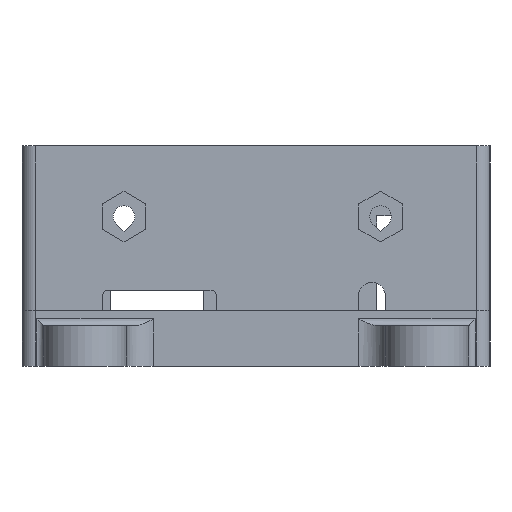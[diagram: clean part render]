
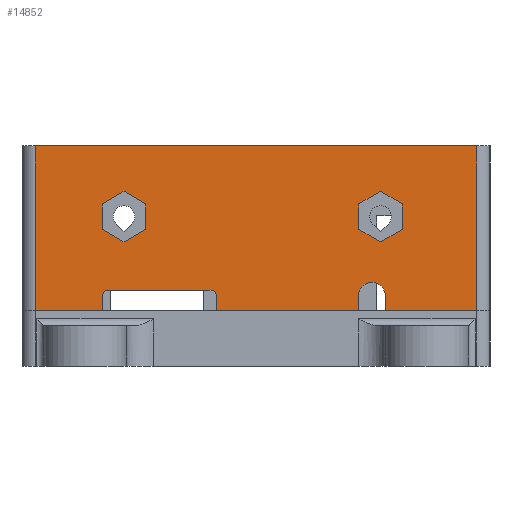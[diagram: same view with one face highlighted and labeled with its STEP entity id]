
A CAD part, left-side view. The second image highlights one B-rep face of the part: STEP entity #14852.
In plain terms, the highlighted planar face has unit normal (-1, 0, 0).
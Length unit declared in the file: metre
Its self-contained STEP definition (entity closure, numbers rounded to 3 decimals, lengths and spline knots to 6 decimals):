
#643=CIRCLE('',#15925,0.001);
#645=CIRCLE('',#15929,0.001);
#647=CIRCLE('',#15934,0.002);
#3264=ORIENTED_EDGE('',*,*,#6800,.F.);
#3265=ORIENTED_EDGE('',*,*,#5868,.T.);
#3266=ORIENTED_EDGE('',*,*,#6801,.T.);
#3267=ORIENTED_EDGE('',*,*,#6665,.T.);
#3268=ORIENTED_EDGE('',*,*,#6654,.F.);
#3269=ORIENTED_EDGE('',*,*,#6657,.T.);
#3270=ORIENTED_EDGE('',*,*,#6661,.F.);
#3271=ORIENTED_EDGE('',*,*,#6664,.F.);
#3272=ORIENTED_EDGE('',*,*,#6802,.T.);
#3273=ORIENTED_EDGE('',*,*,#6672,.F.);
#3274=ORIENTED_EDGE('',*,*,#6671,.T.);
#3275=ORIENTED_EDGE('',*,*,#6675,.F.);
#3276=ORIENTED_EDGE('',*,*,#6787,.T.);
#3277=ORIENTED_EDGE('',*,*,#5862,.F.);
#3278=ORIENTED_EDGE('',*,*,#6595,.F.);
#3279=ORIENTED_EDGE('',*,*,#6598,.F.);
#3280=ORIENTED_EDGE('',*,*,#6582,.F.);
#3281=ORIENTED_EDGE('',*,*,#6586,.F.);
#3282=ORIENTED_EDGE('',*,*,#6589,.F.);
#3283=ORIENTED_EDGE('',*,*,#6592,.F.);
#3284=ORIENTED_EDGE('',*,*,#6613,.F.);
#3285=ORIENTED_EDGE('',*,*,#6616,.F.);
#3286=ORIENTED_EDGE('',*,*,#6600,.F.);
#3287=ORIENTED_EDGE('',*,*,#6604,.F.);
#3288=ORIENTED_EDGE('',*,*,#6607,.F.);
#3289=ORIENTED_EDGE('',*,*,#6610,.F.);
#5862=EDGE_CURVE('',#7799,#7801,#9438,.T.);
#5868=EDGE_CURVE('',#7804,#7806,#9441,.T.);
#6582=EDGE_CURVE('',#8299,#8300,#9851,.T.);
#6586=EDGE_CURVE('',#8303,#8299,#9855,.T.);
#6589=EDGE_CURVE('',#8305,#8303,#9858,.T.);
#6592=EDGE_CURVE('',#8307,#8305,#9861,.T.);
#6595=EDGE_CURVE('',#8309,#8307,#9864,.T.);
#6598=EDGE_CURVE('',#8300,#8309,#9867,.T.);
#6600=EDGE_CURVE('',#8311,#8312,#9869,.T.);
#6604=EDGE_CURVE('',#8315,#8311,#9873,.T.);
#6607=EDGE_CURVE('',#8317,#8315,#9876,.T.);
#6610=EDGE_CURVE('',#8319,#8317,#9879,.T.);
#6613=EDGE_CURVE('',#8321,#8319,#9882,.T.);
#6616=EDGE_CURVE('',#8312,#8321,#9885,.T.);
#6654=EDGE_CURVE('',#8353,#8354,#643,.T.);
#6657=EDGE_CURVE('',#8353,#8356,#9916,.T.);
#6661=EDGE_CURVE('',#8358,#8356,#645,.T.);
#6664=EDGE_CURVE('',#8360,#8358,#9921,.T.);
#6665=EDGE_CURVE('',#8361,#8354,#9922,.T.);
#6671=EDGE_CURVE('',#8363,#8366,#647,.T.);
#6672=EDGE_CURVE('',#8363,#8367,#9927,.T.);
#6675=EDGE_CURVE('',#8369,#8366,#9930,.T.);
#6787=EDGE_CURVE('',#8369,#7801,#10018,.T.);
#6800=EDGE_CURVE('',#7804,#7799,#10031,.T.);
#6801=EDGE_CURVE('',#7806,#8361,#10032,.T.);
#6802=EDGE_CURVE('',#8360,#8367,#10033,.T.);
#7799=VERTEX_POINT('',#22051);
#7801=VERTEX_POINT('',#22054);
#7804=VERTEX_POINT('',#22061);
#7806=VERTEX_POINT('',#22065);
#8299=VERTEX_POINT('',#23509);
#8300=VERTEX_POINT('',#23510);
#8303=VERTEX_POINT('',#23518);
#8305=VERTEX_POINT('',#23524);
#8307=VERTEX_POINT('',#23530);
#8309=VERTEX_POINT('',#23536);
#8311=VERTEX_POINT('',#23545);
#8312=VERTEX_POINT('',#23546);
#8315=VERTEX_POINT('',#23554);
#8317=VERTEX_POINT('',#23560);
#8319=VERTEX_POINT('',#23566);
#8321=VERTEX_POINT('',#23572);
#8353=VERTEX_POINT('',#23656);
#8354=VERTEX_POINT('',#23658);
#8356=VERTEX_POINT('',#23663);
#8358=VERTEX_POINT('',#23670);
#8360=VERTEX_POINT('',#23676);
#8361=VERTEX_POINT('',#23680);
#8363=VERTEX_POINT('',#23686);
#8366=VERTEX_POINT('',#23691);
#8367=VERTEX_POINT('',#23695);
#8369=VERTEX_POINT('',#23701);
#9438=LINE('',#22053,#11059);
#9441=LINE('',#22066,#11062);
#9851=LINE('',#23508,#11472);
#9855=LINE('',#23517,#11476);
#9858=LINE('',#23523,#11479);
#9861=LINE('',#23529,#11482);
#9864=LINE('',#23535,#11485);
#9867=LINE('',#23541,#11488);
#9869=LINE('',#23544,#11490);
#9873=LINE('',#23553,#11494);
#9876=LINE('',#23559,#11497);
#9879=LINE('',#23565,#11500);
#9882=LINE('',#23571,#11503);
#9885=LINE('',#23577,#11506);
#9916=LINE('',#23664,#11537);
#9921=LINE('',#23677,#11542);
#9922=LINE('',#23679,#11543);
#9927=LINE('',#23694,#11548);
#9930=LINE('',#23700,#11551);
#10018=LINE('',#23933,#11639);
#10031=LINE('',#23954,#11652);
#10032=LINE('',#23955,#11653);
#10033=LINE('',#23956,#11654);
#11059=VECTOR('',#17567,1.);
#11062=VECTOR('',#17578,1.);
#11472=VECTOR('',#19052,1.);
#11476=VECTOR('',#19058,1.);
#11479=VECTOR('',#19063,1.);
#11482=VECTOR('',#19068,1.);
#11485=VECTOR('',#19073,1.);
#11488=VECTOR('',#19078,1.);
#11490=VECTOR('',#19082,1.);
#11494=VECTOR('',#19088,1.);
#11497=VECTOR('',#19093,1.);
#11500=VECTOR('',#19098,1.);
#11503=VECTOR('',#19103,1.);
#11506=VECTOR('',#19108,1.);
#11537=VECTOR('',#19183,1.);
#11542=VECTOR('',#19196,1.);
#11543=VECTOR('',#19199,1.);
#11548=VECTOR('',#19212,1.);
#11551=VECTOR('',#19217,1.);
#11639=VECTOR('',#19419,1.);
#11652=VECTOR('',#19438,1.);
#11653=VECTOR('',#19439,1.);
#11654=VECTOR('',#19440,1.);
#12562=EDGE_LOOP('',(#3264,#3265,#3266,#3267,#3268,#3269,#3270,#3271,#3272,
#3273,#3274,#3275,#3276,#3277));
#12563=EDGE_LOOP('',(#3278,#3279,#3280,#3281,#3282,#3283));
#12564=EDGE_LOOP('',(#3284,#3285,#3286,#3287,#3288,#3289));
#13463=FACE_BOUND('',#12562,.T.);
#13464=FACE_BOUND('',#12563,.T.);
#13465=FACE_BOUND('',#12564,.T.);
#14182=PLANE('',#15996);
#14852=ADVANCED_FACE('',(#13463,#13464,#13465),#14182,.F.);
#15925=AXIS2_PLACEMENT_3D('',#23657,#19177,#19178);
#15929=AXIS2_PLACEMENT_3D('',#23671,#19190,#19191);
#15934=AXIS2_PLACEMENT_3D('',#23692,#19208,#19209);
#15996=AXIS2_PLACEMENT_3D('',#23953,#19436,#19437);
#17567=DIRECTION('',(0.,0.,-1.));
#17578=DIRECTION('',(0.,0.,-1.));
#19052=DIRECTION('',(0.,0.866,0.5));
#19058=DIRECTION('',(0.,0.,1.));
#19063=DIRECTION('',(0.,-0.866,0.5));
#19068=DIRECTION('',(0.,-0.866,-0.5));
#19073=DIRECTION('',(0.,0.,-1.));
#19078=DIRECTION('',(0.,0.866,-0.5));
#19082=DIRECTION('',(0.,-0.866,-0.5));
#19088=DIRECTION('',(0.,0.,-1.));
#19093=DIRECTION('',(0.,0.866,-0.5));
#19098=DIRECTION('',(0.,0.866,0.5));
#19103=DIRECTION('',(0.,0.,1.));
#19108=DIRECTION('',(0.,-0.866,0.5));
#19177=DIRECTION('',(-1.,0.,0.));
#19178=DIRECTION('',(0.,-1.,0.));
#19183=DIRECTION('',(0.,-1.,0.));
#19190=DIRECTION('',(-1.,0.,0.));
#19191=DIRECTION('',(0.,-1.,0.));
#19196=DIRECTION('',(0.,0.,1.));
#19199=DIRECTION('',(0.,0.,1.));
#19208=DIRECTION('',(1.,0.,0.));
#19209=DIRECTION('',(0.,1.,0.));
#19212=DIRECTION('',(0.,0.,-1.));
#19217=DIRECTION('',(0.,0.,1.));
#19419=DIRECTION('',(0.,-1.,0.));
#19436=DIRECTION('',(1.,0.,0.));
#19437=DIRECTION('',(0.,1.,0.));
#19438=DIRECTION('',(0.,-1.,0.));
#19439=DIRECTION('',(0.,-1.,0.));
#19440=DIRECTION('',(0.,-1.,0.));
#22051=CARTESIAN_POINT('',(-0.0023,-0.0003,0.0245));
#22053=CARTESIAN_POINT('',(-0.0023,-0.0003,0.022502));
#22054=CARTESIAN_POINT('',(-0.0023,-0.0003,0.));
#22061=CARTESIAN_POINT('',(-0.0023,0.0652,0.0245));
#22065=CARTESIAN_POINT('',(-0.0023,0.0652,0.));
#22066=CARTESIAN_POINT('',(-0.0023,0.0652,0.));
#23508=CARTESIAN_POINT('',(-0.0023,0.012324,0.016814));
#23509=CARTESIAN_POINT('',(-0.0023,0.010699,0.015876));
#23510=CARTESIAN_POINT('',(-0.0023,0.013949,0.017753));
#23517=CARTESIAN_POINT('',(-0.0023,0.010699,0.014));
#23518=CARTESIAN_POINT('',(-0.0023,0.010699,0.012123));
#23523=CARTESIAN_POINT('',(-0.0023,0.012324,0.011185));
#23524=CARTESIAN_POINT('',(-0.0023,0.013949,0.010247));
#23529=CARTESIAN_POINT('',(-0.0023,0.015574,0.011185));
#23530=CARTESIAN_POINT('',(-0.0023,0.017199,0.012123));
#23535=CARTESIAN_POINT('',(-0.0023,0.017199,0.014));
#23536=CARTESIAN_POINT('',(-0.0023,0.017199,0.015876));
#23541=CARTESIAN_POINT('',(-0.0023,0.015574,0.016814));
#23544=CARTESIAN_POINT('',(-0.0023,0.053674,0.011185));
#23545=CARTESIAN_POINT('',(-0.0023,0.055299,0.012123));
#23546=CARTESIAN_POINT('',(-0.0023,0.052049,0.010247));
#23553=CARTESIAN_POINT('',(-0.0023,0.055299,0.014));
#23554=CARTESIAN_POINT('',(-0.0023,0.055299,0.015876));
#23559=CARTESIAN_POINT('',(-0.0023,0.053674,0.016814));
#23560=CARTESIAN_POINT('',(-0.0023,0.052049,0.017753));
#23565=CARTESIAN_POINT('',(-0.0023,0.050424,0.016814));
#23566=CARTESIAN_POINT('',(-0.0023,0.048799,0.015876));
#23571=CARTESIAN_POINT('',(-0.0023,0.048799,0.014));
#23572=CARTESIAN_POINT('',(-0.0023,0.048799,0.012123));
#23577=CARTESIAN_POINT('',(-0.0023,0.050424,0.011185));
#23656=CARTESIAN_POINT('',(-0.0023,0.0543,0.0031));
#23657=CARTESIAN_POINT('',(-0.0023,0.0543,0.0021));
#23658=CARTESIAN_POINT('',(-0.0023,0.0553,0.0021));
#23663=CARTESIAN_POINT('',(-0.0023,0.0393,0.0031));
#23664=CARTESIAN_POINT('',(-0.0023,0.0468,0.0031));
#23670=CARTESIAN_POINT('',(-0.0023,0.0383,0.0021));
#23671=CARTESIAN_POINT('',(-0.0023,0.0393,0.0021));
#23676=CARTESIAN_POINT('',(-0.0023,0.0383,0.));
#23677=CARTESIAN_POINT('',(-0.0023,0.0383,0.00105));
#23679=CARTESIAN_POINT('',(-0.0023,0.0553,0.00105));
#23680=CARTESIAN_POINT('',(-0.0023,0.0553,0.));
#23686=CARTESIAN_POINT('',(-0.0023,0.01725,0.00225));
#23691=CARTESIAN_POINT('',(-0.0023,0.01325,0.00225));
#23692=CARTESIAN_POINT('',(-0.0023,0.01525,0.00225));
#23694=CARTESIAN_POINT('',(-0.0023,0.01725,0.022502));
#23695=CARTESIAN_POINT('',(-0.0023,0.01725,0.));
#23700=CARTESIAN_POINT('',(-0.0023,0.01325,0.022502));
#23701=CARTESIAN_POINT('',(-0.0023,0.01325,0.));
#23933=CARTESIAN_POINT('',(-0.0023,0.03245,0.));
#23953=CARTESIAN_POINT('',(-0.0023,-0.0003,0.));
#23954=CARTESIAN_POINT('',(-0.0023,0.03245,0.0245));
#23955=CARTESIAN_POINT('',(-0.0023,0.03245,0.));
#23956=CARTESIAN_POINT('',(-0.0023,0.03245,0.));
